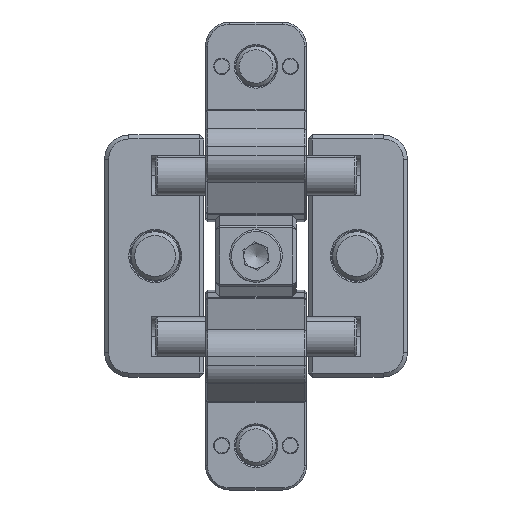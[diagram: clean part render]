
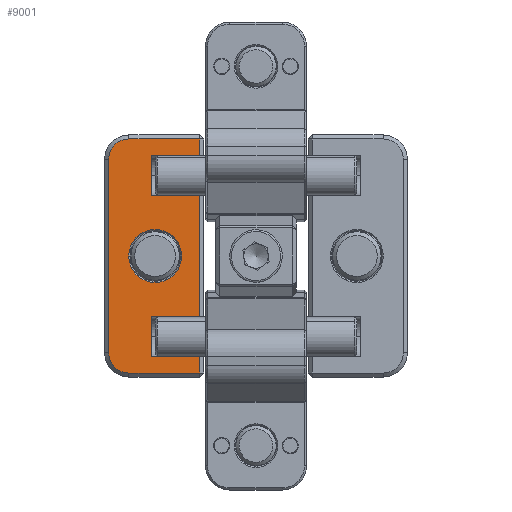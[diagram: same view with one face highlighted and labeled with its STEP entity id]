
A CAD part, left-side view. The second image highlights one B-rep face of the part: STEP entity #9001.
In plain terms, the highlighted planar face has unit normal (-1, 0, 0) as drawn and (0, 1, 0) by its records, which use the part's own axes.
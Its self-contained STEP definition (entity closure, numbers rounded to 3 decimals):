
#88 = DIRECTION ( 'NONE',  ( 1., 0., 0. ) ) ;
#221 = EDGE_CURVE ( 'NONE', #8747, #8023, #645, .T. ) ;
#327 = DIRECTION ( 'NONE',  ( 0., 0., -1. ) ) ;
#348 = LINE ( 'NONE', #8983, #2760 ) ;
#496 = VECTOR ( 'NONE', #3873, 1000. ) ;
#555 = EDGE_CURVE ( 'NONE', #4964, #4200, #4419, .T. ) ;
#645 = CIRCLE ( 'NONE', #3511, 5. ) ;
#657 = CARTESIAN_POINT ( 'NONE',  ( 0., 0., -12. ) ) ;
#739 = ORIENTED_EDGE ( 'NONE', *, *, #5086, .T. ) ;
#808 = AXIS2_PLACEMENT_3D ( 'NONE', #3160, #8580, #7969 ) ;
#924 = EDGE_CURVE ( 'NONE', #4011, #4964, #4493, .T. ) ;
#952 = EDGE_CURVE ( 'NONE', #9351, #2049, #7999, .T. ) ;
#1057 = ORIENTED_EDGE ( 'NONE', *, *, #3798, .T. ) ;
#1216 = EDGE_CURVE ( 'NONE', #4975, #9351, #2020, .T. ) ;
#1494 = CARTESIAN_POINT ( 'NONE',  ( -29., 0., -1. ) ) ;
#1534 = PLANE ( 'NONE',  #808 ) ;
#1657 = CARTESIAN_POINT ( 'NONE',  ( 25., 0., -13. ) ) ;
#1967 = EDGE_CURVE ( 'NONE', #8747, #4975, #2281, .T. ) ;
#2020 = CIRCLE ( 'NONE', #7024, 5. ) ;
#2039 = CARTESIAN_POINT ( 'NONE',  ( -15., 0., -13. ) ) ;
#2049 = VERTEX_POINT ( 'NONE', #1494 ) ;
#2199 = EDGE_CURVE ( 'NONE', #4200, #3436, #5201, .T. ) ;
#2280 = VERTEX_POINT ( 'NONE', #4573 ) ;
#2281 = LINE ( 'NONE', #9528, #7533 ) ;
#2344 = CARTESIAN_POINT ( 'NONE',  ( -25., 0., -1. ) ) ;
#2369 = VERTEX_POINT ( 'NONE', #7360 ) ;
#2406 = DIRECTION ( 'NONE',  ( 0., 0., 1. ) ) ;
#2444 = CARTESIAN_POINT ( 'NONE',  ( 15., 0., -13. ) ) ;
#2461 = LINE ( 'NONE', #8581, #8366 ) ;
#2464 = DIRECTION ( 'NONE',  ( 0., 0., 1. ) ) ;
#2759 = DIRECTION ( 'NONE',  ( 0., 0., -1. ) ) ;
#2760 = VECTOR ( 'NONE', #3560, 1000. ) ;
#3026 = VECTOR ( 'NONE', #6122, 1000. ) ;
#3160 = CARTESIAN_POINT ( 'NONE',  ( 0., 0., 0. ) ) ;
#3436 = VERTEX_POINT ( 'NONE', #8844 ) ;
#3511 = AXIS2_PLACEMENT_3D ( 'NONE', #3749, #8395, #5965 ) ;
#3515 = VERTEX_POINT ( 'NONE', #5639 ) ;
#3560 = DIRECTION ( 'NONE',  ( 0., 0., 1. ) ) ;
#3590 = ORIENTED_EDGE ( 'NONE', *, *, #2199, .T. ) ;
#3599 = LINE ( 'NONE', #6736, #6456 ) ;
#3634 = CARTESIAN_POINT ( 'NONE',  ( 29., 0., -18.5 ) ) ;
#3641 = EDGE_CURVE ( 'NONE', #3648, #2369, #6217, .T. ) ;
#3648 = VERTEX_POINT ( 'NONE', #2039 ) ;
#3651 = DIRECTION ( 'NONE',  ( 0., 1., 0. ) ) ;
#3697 = CIRCLE ( 'NONE', #7213, 6.55 ) ;
#3749 = CARTESIAN_POINT ( 'NONE',  ( 24., 0., -18.5 ) ) ;
#3798 = EDGE_CURVE ( 'NONE', #2280, #2280, #3697, .T. ) ;
#3800 = EDGE_CURVE ( 'NONE', #4174, #3515, #2461, .T. ) ;
#3872 = ORIENTED_EDGE ( 'NONE', *, *, #555, .T. ) ;
#3873 = DIRECTION ( 'NONE',  ( 0., 0., 1. ) ) ;
#3957 = DIRECTION ( 'NONE',  ( -1., 0., 0. ) ) ;
#3972 = VERTEX_POINT ( 'NONE', #2344 ) ;
#3988 = ORIENTED_EDGE ( 'NONE', *, *, #9486, .T. ) ;
#3990 = FACE_BOUND ( 'NONE', #9331, .T. ) ;
#4011 = VERTEX_POINT ( 'NONE', #9655 ) ;
#4024 = CARTESIAN_POINT ( 'NONE',  ( 29., 0., 0. ) ) ;
#4066 = VECTOR ( 'NONE', #6348, 1000. ) ;
#4174 = VERTEX_POINT ( 'NONE', #5527 ) ;
#4200 = VERTEX_POINT ( 'NONE', #2444 ) ;
#4419 = LINE ( 'NONE', #7605, #7011 ) ;
#4493 = LINE ( 'NONE', #6808, #6031 ) ;
#4513 = ORIENTED_EDGE ( 'NONE', *, *, #952, .T. ) ;
#4528 = CARTESIAN_POINT ( 'NONE',  ( -24., 0., -18.5 ) ) ;
#4573 = CARTESIAN_POINT ( 'NONE',  ( 0., 0., -5.45 ) ) ;
#4597 = ORIENTED_EDGE ( 'NONE', *, *, #1216, .T. ) ;
#4765 = ORIENTED_EDGE ( 'NONE', *, *, #8477, .F. ) ;
#4823 = ORIENTED_EDGE ( 'NONE', *, *, #3800, .F. ) ;
#4941 = CARTESIAN_POINT ( 'NONE',  ( 15., 0., -1. ) ) ;
#4952 = ORIENTED_EDGE ( 'NONE', *, *, #7379, .F. ) ;
#4964 = VERTEX_POINT ( 'NONE', #4941 ) ;
#4975 = VERTEX_POINT ( 'NONE', #8119 ) ;
#5086 = EDGE_CURVE ( 'NONE', #2049, #3972, #8951, .T. ) ;
#5104 = CARTESIAN_POINT ( 'NONE',  ( -29., 0., -18.5 ) ) ;
#5201 = LINE ( 'NONE', #1657, #9035 ) ;
#5436 = VECTOR ( 'NONE', #7739, 1000. ) ;
#5527 = CARTESIAN_POINT ( 'NONE',  ( 29., 0., -1. ) ) ;
#5560 = CARTESIAN_POINT ( 'NONE',  ( 25., 0., -13. ) ) ;
#5585 = VECTOR ( 'NONE', #2464, 1000. ) ;
#5615 = LINE ( 'NONE', #4024, #5585 ) ;
#5639 = CARTESIAN_POINT ( 'NONE',  ( 25., 0., -1. ) ) ;
#5965 = DIRECTION ( 'NONE',  ( 0., 0., 1. ) ) ;
#6031 = VECTOR ( 'NONE', #6907, 1000. ) ;
#6122 = DIRECTION ( 'NONE',  ( -1., 0., 0. ) ) ;
#6217 = LINE ( 'NONE', #10123, #3026 ) ;
#6326 = ORIENTED_EDGE ( 'NONE', *, *, #3641, .F. ) ;
#6348 = DIRECTION ( 'NONE',  ( 1., 0., 0. ) ) ;
#6456 = VECTOR ( 'NONE', #2759, 1000. ) ;
#6467 = CARTESIAN_POINT ( 'NONE',  ( 0., 0., -1. ) ) ;
#6736 = CARTESIAN_POINT ( 'NONE',  ( -15., 0., -13. ) ) ;
#6808 = CARTESIAN_POINT ( 'NONE',  ( 0., 0., -1. ) ) ;
#6907 = DIRECTION ( 'NONE',  ( 1., 0., 0. ) ) ;
#7011 = VECTOR ( 'NONE', #327, 1000. ) ;
#7024 = AXIS2_PLACEMENT_3D ( 'NONE', #4528, #3651, #8546 ) ;
#7213 = AXIS2_PLACEMENT_3D ( 'NONE', #657, #8045, #2406 ) ;
#7360 = CARTESIAN_POINT ( 'NONE',  ( -25., 0., -13. ) ) ;
#7379 = EDGE_CURVE ( 'NONE', #4011, #3648, #3599, .T. ) ;
#7533 = VECTOR ( 'NONE', #3957, 1000. ) ;
#7605 = CARTESIAN_POINT ( 'NONE',  ( 15., 0., -13. ) ) ;
#7718 = EDGE_LOOP ( 'NONE', ( #4952, #8142, #3872, #3590, #3988, #4823, #4765, #10094, #9199, #4597, #4513, #739, #7945, #6326 ) ) ;
#7739 = DIRECTION ( 'NONE',  ( 0., 0., 1. ) ) ;
#7752 = FACE_OUTER_BOUND ( 'NONE', #7718, .T. ) ;
#7945 = ORIENTED_EDGE ( 'NONE', *, *, #9761, .F. ) ;
#7969 = DIRECTION ( 'NONE',  ( 0., 0., 1. ) ) ;
#7999 = LINE ( 'NONE', #8049, #496 ) ;
#8023 = VERTEX_POINT ( 'NONE', #3634 ) ;
#8045 = DIRECTION ( 'NONE',  ( 0., -1., 0. ) ) ;
#8049 = CARTESIAN_POINT ( 'NONE',  ( -29., 0., 0. ) ) ;
#8119 = CARTESIAN_POINT ( 'NONE',  ( -24., 0., -23.5 ) ) ;
#8142 = ORIENTED_EDGE ( 'NONE', *, *, #924, .T. ) ;
#8366 = VECTOR ( 'NONE', #9658, 1000. ) ;
#8395 = DIRECTION ( 'NONE',  ( 0., -1., 0. ) ) ;
#8477 = EDGE_CURVE ( 'NONE', #8023, #4174, #5615, .T. ) ;
#8546 = DIRECTION ( 'NONE',  ( 0., 0., 1. ) ) ;
#8580 = DIRECTION ( 'NONE',  ( 0., 1., 0. ) ) ;
#8581 = CARTESIAN_POINT ( 'NONE',  ( 0., 0., -1. ) ) ;
#8747 = VERTEX_POINT ( 'NONE', #8908 ) ;
#8844 = CARTESIAN_POINT ( 'NONE',  ( 25., 0., -13. ) ) ;
#8908 = CARTESIAN_POINT ( 'NONE',  ( 24., 0., -23.5 ) ) ;
#8951 = LINE ( 'NONE', #6467, #4066 ) ;
#8983 = CARTESIAN_POINT ( 'NONE',  ( -25., 0., -13. ) ) ;
#9001 = ADVANCED_FACE ( 'NONE', ( #3990, #7752 ), #1534, .T. ) ;
#9035 = VECTOR ( 'NONE', #88, 1000. ) ;
#9199 = ORIENTED_EDGE ( 'NONE', *, *, #1967, .T. ) ;
#9331 = EDGE_LOOP ( 'NONE', ( #1057 ) ) ;
#9351 = VERTEX_POINT ( 'NONE', #5104 ) ;
#9486 = EDGE_CURVE ( 'NONE', #3436, #3515, #10237, .T. ) ;
#9528 = CARTESIAN_POINT ( 'NONE',  ( 0., 0., -23.5 ) ) ;
#9655 = CARTESIAN_POINT ( 'NONE',  ( -15., 0., -1. ) ) ;
#9658 = DIRECTION ( 'NONE',  ( -1., 0., 0. ) ) ;
#9761 = EDGE_CURVE ( 'NONE', #2369, #3972, #348, .T. ) ;
#10094 = ORIENTED_EDGE ( 'NONE', *, *, #221, .F. ) ;
#10123 = CARTESIAN_POINT ( 'NONE',  ( -25., 0., -13. ) ) ;
#10237 = LINE ( 'NONE', #5560, #5436 ) ;
